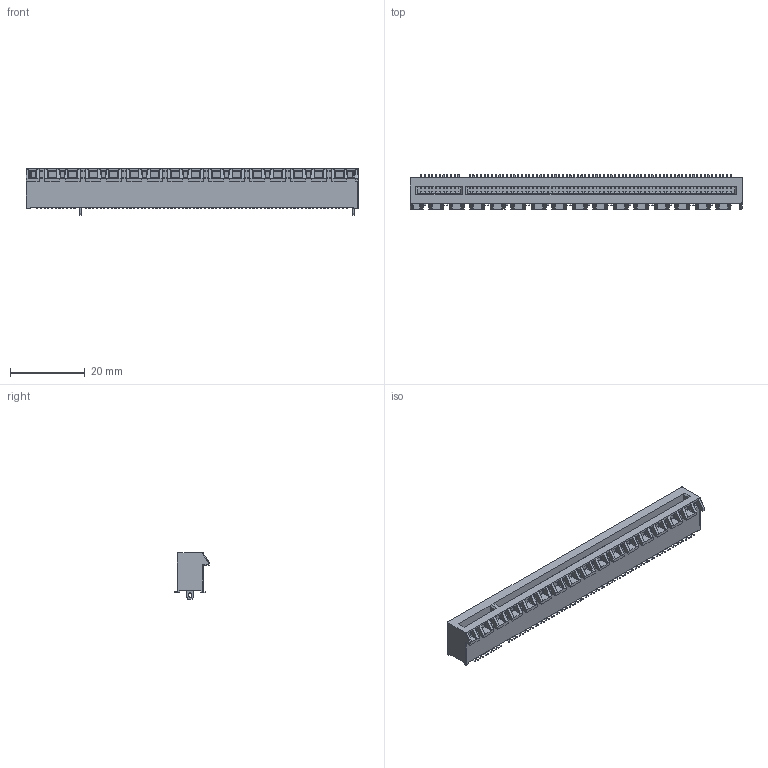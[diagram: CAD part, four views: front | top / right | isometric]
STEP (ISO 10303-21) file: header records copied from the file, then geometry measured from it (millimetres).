
FILE_DESCRIPTION((''),'2;1');
FILE_NAME('STANDARD_PCIE5_0_SLOT_PLUS_164P','2026-07-10T17:00:28',('39000620'),(''),'CREO PARAMETRIC BY PTC INC, 2019471','CREO PARAMETRIC BY PTC INC, 2019471','');
FILE_SCHEMA(('CONFIG_CONTROL_DESIGN'));
Products named in the file (1): STANDARD_PCIE5_0_SLOT_PLUS_164P
Bounding box: 89 x 9.22 x 12.4 mm (x, y, z)
Volume: 5252.8 mm3; surface area: 5671.3 mm2
Topology: 1 solids, 8 shells, 4208 faces, 11698 edges, 7522 vertices
Faces by surface type: plane 2547, cylinder 1507, sphere 154
Entity records: 133652 total; most frequent: CARTESIAN_POINT 23496, ORIENTED_EDGE 23088, DIRECTION 22863, EDGE_CURVE 11544, VECTOR 8535, LINE 8535, VERTEX_POINT 7522, AXIS2_PLACEMENT_3D 7164
